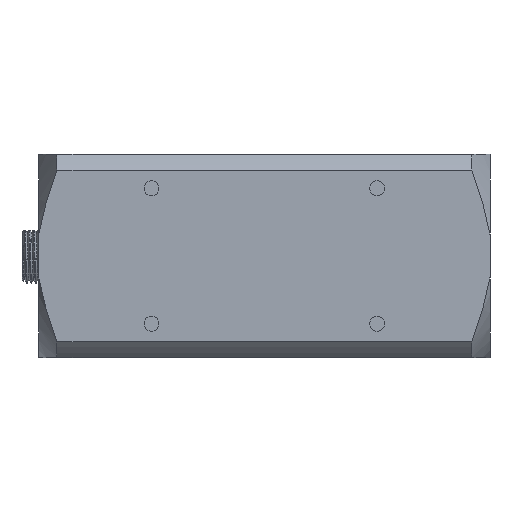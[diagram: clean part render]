
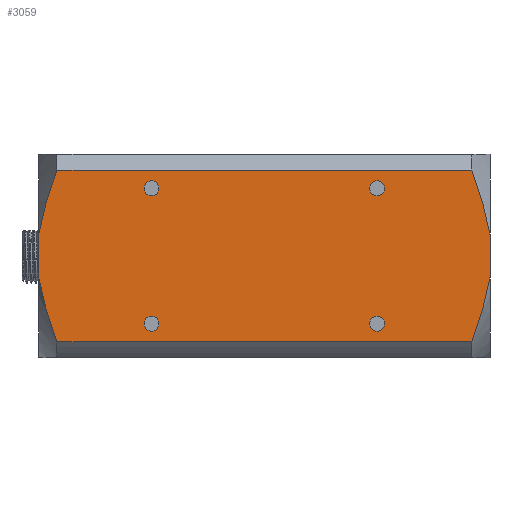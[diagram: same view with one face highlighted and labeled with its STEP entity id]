
A CAD part, front view. The second image highlights one B-rep face of the part: STEP entity #3059.
In plain terms, the highlighted planar face has unit normal (0, -1, 0).
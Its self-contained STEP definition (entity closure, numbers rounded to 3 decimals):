
#816=FACE_BOUND('',#5415,.T.);
#817=FACE_BOUND('',#5416,.T.);
#818=FACE_BOUND('',#5417,.T.);
#819=FACE_BOUND('',#5418,.T.);
#820=FACE_BOUND('',#5419,.T.);
#1310=B_SPLINE_CURVE_WITH_KNOTS('',3,(#32579,#32580,#32581,#32582),
 .UNSPECIFIED.,.F.,.F.,(4,4),(0.,1.),.UNSPECIFIED.);
#1320=B_SPLINE_CURVE_WITH_KNOTS('',3,(#32691,#32692,#32693,#32694),
 .UNSPECIFIED.,.F.,.F.,(4,4),(0.,1.),.UNSPECIFIED.);
#1322=B_SPLINE_CURVE_WITH_KNOTS('',3,(#32717,#32718,#32719,#32720),
 .UNSPECIFIED.,.F.,.F.,(4,4),(0.,1.),.UNSPECIFIED.);
#1325=B_SPLINE_CURVE_WITH_KNOTS('',3,(#32781,#32782,#32783,#32784),
 .UNSPECIFIED.,.F.,.F.,(4,4),(0.,1.),.UNSPECIFIED.);
#2254=PLANE('',#21022);
#3059=ADVANCED_FACE('',(#816,#817,#818,#819,#820),#2254,.T.);
#5415=EDGE_LOOP('',(#12317,#12318));
#5416=EDGE_LOOP('',(#12319,#12320));
#5417=EDGE_LOOP('',(#12321,#12322));
#5418=EDGE_LOOP('',(#12323,#12324));
#5419=EDGE_LOOP('',(#12325,#12326,#12327,#12328,#12329,#12330,#12331,#12332));
#6808=LINE('',#32698,#8485);
#6810=LINE('',#32715,#8487);
#6812=LINE('',#32730,#8489);
#6814=LINE('',#32738,#8491);
#8485=VECTOR('',#23941,1.);
#8487=VECTOR('',#23955,1.);
#8489=VECTOR('',#23963,1.);
#8491=VECTOR('',#23973,1.);
#12317=ORIENTED_EDGE('',*,*,#18351,.T.);
#12318=ORIENTED_EDGE('',*,*,#18349,.T.);
#12319=ORIENTED_EDGE('',*,*,#18347,.T.);
#12320=ORIENTED_EDGE('',*,*,#18345,.T.);
#12321=ORIENTED_EDGE('',*,*,#18343,.T.);
#12322=ORIENTED_EDGE('',*,*,#18341,.T.);
#12323=ORIENTED_EDGE('',*,*,#18339,.T.);
#12324=ORIENTED_EDGE('',*,*,#18337,.T.);
#12325=ORIENTED_EDGE('',*,*,#18332,.F.);
#12326=ORIENTED_EDGE('',*,*,#18352,.T.);
#12327=ORIENTED_EDGE('',*,*,#18315,.F.);
#12328=ORIENTED_EDGE('',*,*,#18313,.F.);
#12329=ORIENTED_EDGE('',*,*,#18322,.T.);
#12330=ORIENTED_EDGE('',*,*,#18323,.F.);
#12331=ORIENTED_EDGE('',*,*,#18327,.F.);
#12332=ORIENTED_EDGE('',*,*,#18277,.T.);
#15964=VERTEX_POINT('',#32583);
#15965=VERTEX_POINT('',#32584);
#15996=VERTEX_POINT('',#32690);
#15997=VERTEX_POINT('',#32695);
#15998=VERTEX_POINT('',#32699);
#16002=VERTEX_POINT('',#32714);
#16003=VERTEX_POINT('',#32721);
#16006=VERTEX_POINT('',#32737);
#16008=VERTEX_POINT('',#32750);
#16009=VERTEX_POINT('',#32752);
#16010=VERTEX_POINT('',#32758);
#16011=VERTEX_POINT('',#32760);
#16012=VERTEX_POINT('',#32766);
#16013=VERTEX_POINT('',#32768);
#16014=VERTEX_POINT('',#32774);
#16015=VERTEX_POINT('',#32776);
#18277=EDGE_CURVE('',#15964,#15965,#1310,.T.);
#18313=EDGE_CURVE('',#15996,#15997,#1320,.T.);
#18315=EDGE_CURVE('',#15997,#15998,#6808,.T.);
#18322=EDGE_CURVE('',#15996,#16002,#6810,.T.);
#18323=EDGE_CURVE('',#16003,#16002,#1322,.T.);
#18327=EDGE_CURVE('',#15964,#16003,#6812,.T.);
#18332=EDGE_CURVE('',#16006,#15965,#6814,.T.);
#18337=EDGE_CURVE('',#16009,#16008,#20028,.T.);
#18339=EDGE_CURVE('',#16008,#16009,#20029,.T.);
#18341=EDGE_CURVE('',#16011,#16010,#20030,.T.);
#18343=EDGE_CURVE('',#16010,#16011,#20031,.T.);
#18345=EDGE_CURVE('',#16013,#16012,#20032,.T.);
#18347=EDGE_CURVE('',#16012,#16013,#20033,.T.);
#18349=EDGE_CURVE('',#16015,#16014,#20034,.T.);
#18351=EDGE_CURVE('',#16014,#16015,#20035,.T.);
#18352=EDGE_CURVE('',#16006,#15998,#1325,.T.);
#20028=CIRCLE('',#21006,1.65);
#20029=CIRCLE('',#21008,1.65);
#20030=CIRCLE('',#21010,1.65);
#20031=CIRCLE('',#21012,1.65);
#20032=CIRCLE('',#21014,1.65);
#20033=CIRCLE('',#21016,1.65);
#20034=CIRCLE('',#21018,1.65);
#20035=CIRCLE('',#21020,1.65);
#21006=AXIS2_PLACEMENT_3D('',#32751,#23984,#23985);
#21008=AXIS2_PLACEMENT_3D('',#32755,#23989,#23990);
#21010=AXIS2_PLACEMENT_3D('',#32759,#23994,#23995);
#21012=AXIS2_PLACEMENT_3D('',#32763,#23999,#24000);
#21014=AXIS2_PLACEMENT_3D('',#32767,#24004,#24005);
#21016=AXIS2_PLACEMENT_3D('',#32771,#24009,#24010);
#21018=AXIS2_PLACEMENT_3D('',#32775,#24014,#24015);
#21020=AXIS2_PLACEMENT_3D('',#32779,#24019,#24020);
#21022=AXIS2_PLACEMENT_3D('',#32785,#24023,#24024);
#23941=DIRECTION('',(1.,0.,0.));
#23955=DIRECTION('',(0.,0.,-1.));
#23963=DIRECTION('',(-1.,0.,0.));
#23973=DIRECTION('',(0.,0.,-1.));
#23984=DIRECTION('',(0.,1.,0.));
#23985=DIRECTION('',(0.,0.,1.));
#23989=DIRECTION('',(0.,1.,0.));
#23990=DIRECTION('',(0.,0.,-1.));
#23994=DIRECTION('',(0.,1.,0.));
#23995=DIRECTION('',(0.,0.,1.));
#23999=DIRECTION('',(0.,1.,0.));
#24000=DIRECTION('',(0.,0.,-1.));
#24004=DIRECTION('',(0.,1.,0.));
#24005=DIRECTION('',(0.,0.,1.));
#24009=DIRECTION('',(0.,1.,0.));
#24010=DIRECTION('',(0.,0.,-1.));
#24014=DIRECTION('',(0.,1.,0.));
#24015=DIRECTION('',(0.,0.,1.));
#24019=DIRECTION('',(0.,1.,0.));
#24020=DIRECTION('',(0.,0.,-1.));
#24023=DIRECTION('',(0.,-1.,0.));
#24024=DIRECTION('',(0.,0.,1.));
#32579=CARTESIAN_POINT('',(90.959,-39.49,-438.541));
#32580=CARTESIAN_POINT('',(92.723,-39.49,-433.858));
#32581=CARTESIAN_POINT('',(94.214,-39.49,-429.099));
#32582=CARTESIAN_POINT('',(95.,-39.49,-424.141));
#32583=CARTESIAN_POINT('',(90.959,-39.49,-438.541));
#32584=CARTESIAN_POINT('',(95.,-39.49,-424.141));
#32690=CARTESIAN_POINT('',(-5.,-39.49,-414.859));
#32691=CARTESIAN_POINT('',(-5.,-39.49,-414.859));
#32692=CARTESIAN_POINT('',(-4.214,-39.49,-409.901));
#32693=CARTESIAN_POINT('',(-2.723,-39.49,-405.142));
#32694=CARTESIAN_POINT('',(-0.959,-39.49,-400.459));
#32695=CARTESIAN_POINT('',(-0.959,-39.49,-400.459));
#32698=CARTESIAN_POINT('',(-5.,-39.49,-400.459));
#32699=CARTESIAN_POINT('',(90.959,-39.49,-400.459));
#32714=CARTESIAN_POINT('',(-5.,-39.49,-424.141));
#32715=CARTESIAN_POINT('',(-5.,-39.49,-397.959));
#32717=CARTESIAN_POINT('',(-0.959,-39.49,-438.541));
#32718=CARTESIAN_POINT('',(-2.723,-39.49,-433.858));
#32719=CARTESIAN_POINT('',(-4.214,-39.49,-429.099));
#32720=CARTESIAN_POINT('',(-5.,-39.49,-424.141));
#32721=CARTESIAN_POINT('',(-0.959,-39.49,-438.541));
#32730=CARTESIAN_POINT('',(95.,-39.49,-438.541));
#32737=CARTESIAN_POINT('',(95.,-39.49,-414.859));
#32738=CARTESIAN_POINT('',(95.,-39.49,-397.959));
#32750=CARTESIAN_POINT('',(20.,-39.49,-406.15));
#32751=CARTESIAN_POINT('',(20.,-39.49,-404.5));
#32752=CARTESIAN_POINT('',(20.,-39.49,-402.85));
#32755=CARTESIAN_POINT('',(20.,-39.49,-404.5));
#32758=CARTESIAN_POINT('',(70.,-39.49,-436.15));
#32759=CARTESIAN_POINT('',(70.,-39.49,-434.5));
#32760=CARTESIAN_POINT('',(70.,-39.49,-432.85));
#32763=CARTESIAN_POINT('',(70.,-39.49,-434.5));
#32766=CARTESIAN_POINT('',(20.,-39.49,-436.15));
#32767=CARTESIAN_POINT('',(20.,-39.49,-434.5));
#32768=CARTESIAN_POINT('',(20.,-39.49,-432.85));
#32771=CARTESIAN_POINT('',(20.,-39.49,-434.5));
#32774=CARTESIAN_POINT('',(70.,-39.49,-406.15));
#32775=CARTESIAN_POINT('',(70.,-39.49,-404.5));
#32776=CARTESIAN_POINT('',(70.,-39.49,-402.85));
#32779=CARTESIAN_POINT('',(70.,-39.49,-404.5));
#32781=CARTESIAN_POINT('',(95.,-39.49,-414.859));
#32782=CARTESIAN_POINT('',(94.214,-39.49,-409.901));
#32783=CARTESIAN_POINT('',(92.723,-39.49,-405.142));
#32784=CARTESIAN_POINT('',(90.959,-39.49,-400.459));
#32785=CARTESIAN_POINT('',(95.,-39.49,-444.5));
